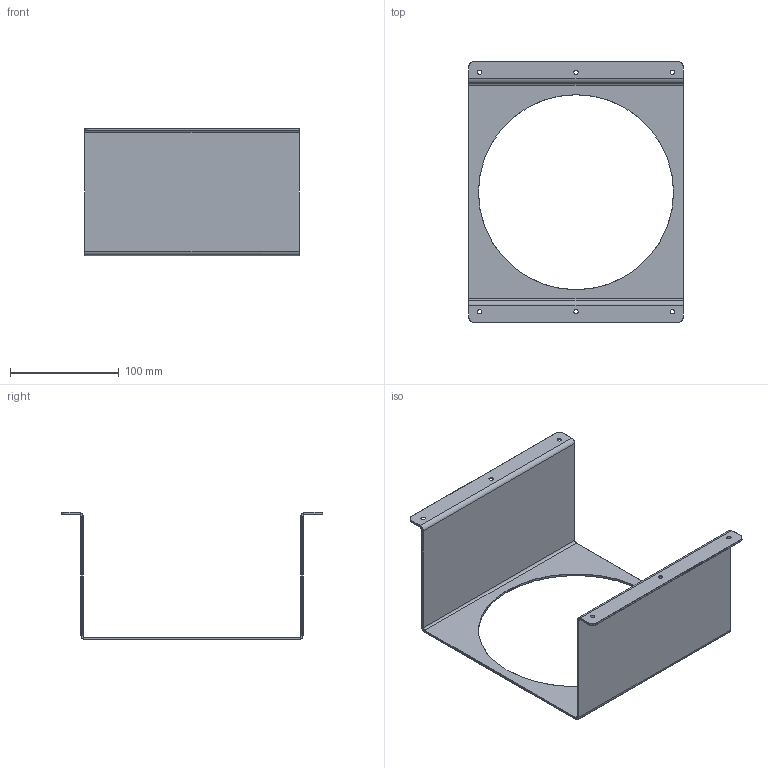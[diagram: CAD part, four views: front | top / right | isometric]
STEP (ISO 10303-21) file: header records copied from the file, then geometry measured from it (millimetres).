
FILE_DESCRIPTION(/* description */ (''),/* implementation_level */ '2;1');
FILE_NAME(/* name */ 'Apple Mac Studio Under Desk Mount v15.step',/* time_stamp */ '2023-07-05T10:41:45+02:00',/* author */ (''),/* organization */ (''),/* preprocessor_version */ 'ST-DEVELOPER v19.2',/* originating_system */ 'Autodesk Translation Framework v12.6.0.85',/* authorisation */ '');
FILE_SCHEMA (('AUTOMOTIVE_DESIGN { 1 0 10303 214 3 1 1 }'));
Length unit declared in the file: millimetre
Products named in the file (1): Apple Mac Studio Under Desk Mount
Bounding box: 197 x 240 x 117 mm (x, y, z)
Volume: 132392.1 mm3; surface area: 136159.9 mm2
Topology: 1 solids, 1 shells, 99 faces, 210 edges, 113 vertices
Faces by surface type: plane 30, cylinder 25, bspline 24, torus 14, cone 6
Full cylindrical faces by diameter (mm): 179 x1
Entity records: 3874 total; most frequent: CARTESIAN_POINT 1889, ORIENTED_EDGE 420, DIRECTION 357, EDGE_CURVE 210, AXIS2_PLACEMENT_3D 143, EDGE_LOOP 113, VERTEX_POINT 113, FACE_OUTER_BOUND 99
